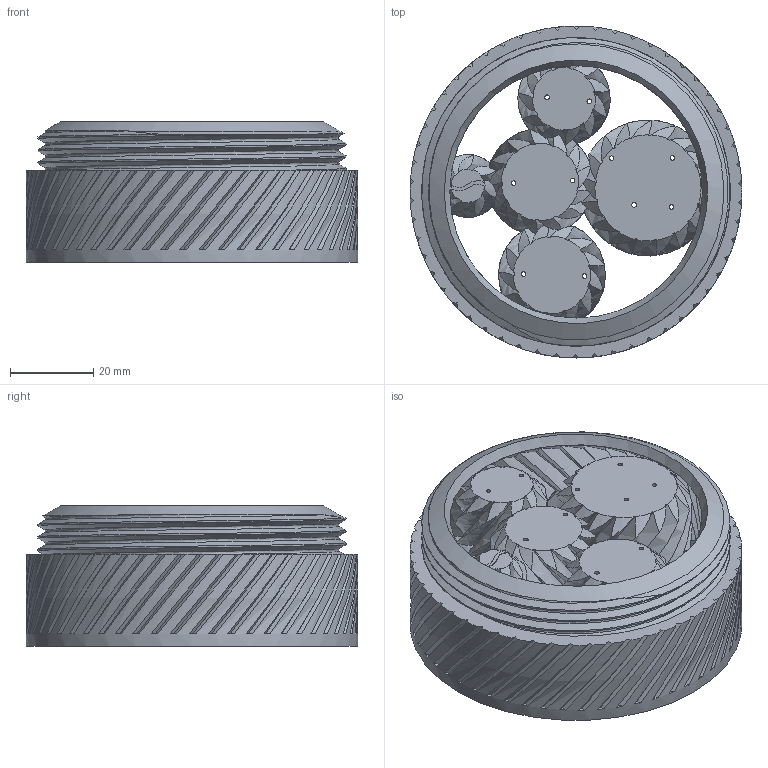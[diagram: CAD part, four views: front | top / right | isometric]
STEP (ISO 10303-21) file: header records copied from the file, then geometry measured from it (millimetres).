
FILE_DESCRIPTION(/* description */ ('STEP AP242','CAx-IF Rec.Pracs.---Representation and Presentation of Product Manufacturing Information (PMI)---4.0---2014-10-13','CAx-IF Rec.Pracs.---3D Tessellated Geometry---0.4---2014-09-14','2;1'),/* implementation_level */ '2;1');
FILE_NAME(/* name */ '646b9f051bedcf7255a40b24',/* time_stamp */ '2023-05-22T16:57:43Z',/* author */ (''),/* organization */ (''),/* preprocessor_version */ 'ST-DEVELOPER v19.4',/* originating_system */ ' ',/* authorisation */ ' ');
FILE_SCHEMA (('AP242_MANAGED_MODEL_BASED_3D_ENGINEERING_MIM_LF { 1 0 10303 442 1 1 4 }'));
Length unit declared in the file: metre
Products named in the file (6): id2; id5; id8; id11; id14; id17
Bounding box: 79.6 x 79.6 x 33.65 mm (x, y, z)
Volume: 99859.6 mm3; surface area: 52655.9 mm2
Topology: 6 solids, 6 shells, 912 faces, 2438 edges, 1542 vertices
Faces by surface type: bspline 627, cone 142, plane 74, cylinder 69
Full cylindrical faces by diameter (mm): 1.1 x10, 1.8 x10, 2.85 x4, 79.6 x1
Entity records: 150005 total; most frequent: CARTESIAN_POINT 133615, ORIENTED_EDGE 4752, EDGE_CURVE 2376, DIRECTION 1578, VERTEX_POINT 1528, B_SPLINE_CURVE_WITH_KNOTS 1458, EDGE_LOOP 976, FACE_BOUND 976
